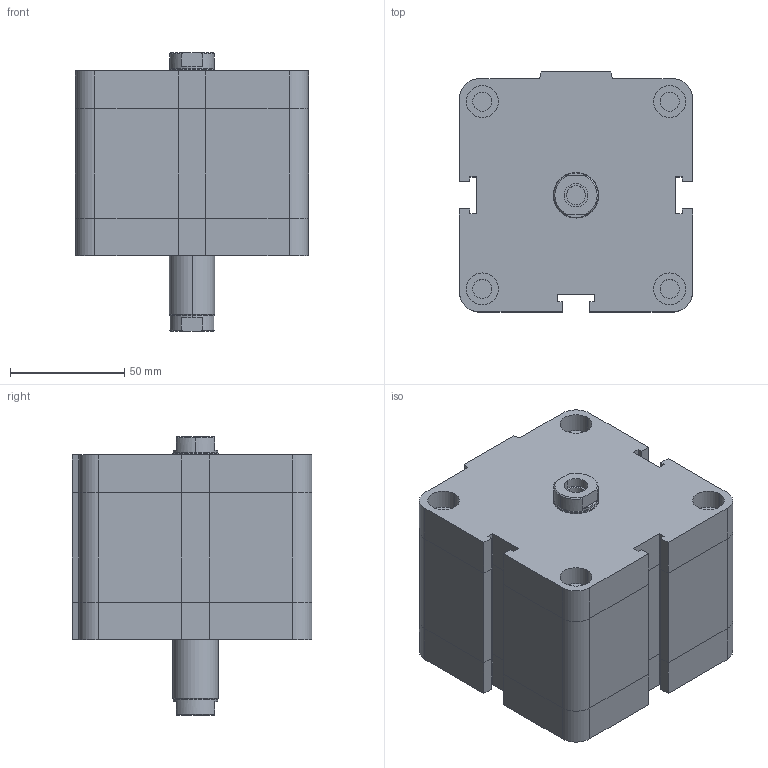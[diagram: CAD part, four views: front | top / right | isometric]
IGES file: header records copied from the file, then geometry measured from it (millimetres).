
Global section: file name: No Iges File Name specified; native system: Autodesk Inventor 2009; preprocessor: AutoDesk Inventor Iges Exporter R2009; author: maffial1; date: 20090420.200617; units: millimetre
Bounding box: 102 x 105 x 122 mm (x, y, z)
Volume: 812814.3 mm3; surface area: 78321.9 mm2
Topology: 2 solids, 2 shells, 202 faces, 450 edges, 274 vertices
Faces by surface type: plane 114, bspline 42, revolution 20, cylinder 18, cone 8
